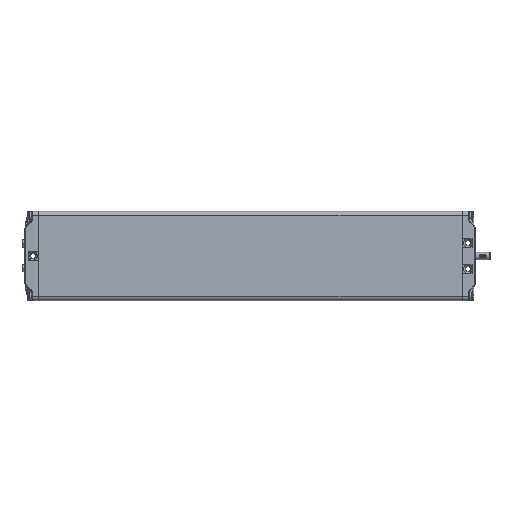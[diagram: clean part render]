
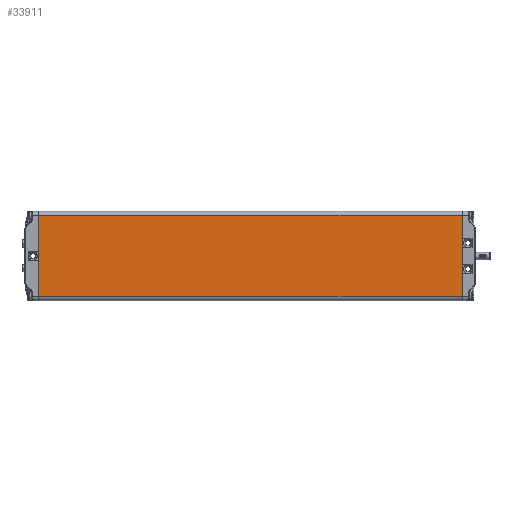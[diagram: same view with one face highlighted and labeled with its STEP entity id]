
A CAD part, top view. The second image highlights one B-rep face of the part: STEP entity #33911.
In plain terms, the highlighted planar face has unit normal (0, 0, 1).
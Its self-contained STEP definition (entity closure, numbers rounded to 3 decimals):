
#3531=LINE('',#72317,#4816);
#3532=LINE('',#72320,#4817);
#3533=LINE('',#72322,#4818);
#3534=LINE('',#72324,#4819);
#4816=VECTOR('',#41149,1000.);
#4817=VECTOR('',#41150,1000.);
#4818=VECTOR('',#41151,1000.);
#4819=VECTOR('',#41152,1000.);
#10116=ORIENTED_EDGE('',*,*,#16193,.T.);
#10117=ORIENTED_EDGE('',*,*,#16194,.T.);
#10118=ORIENTED_EDGE('',*,*,#16195,.T.);
#10119=ORIENTED_EDGE('',*,*,#16196,.T.);
#16193=EDGE_CURVE('',#19457,#19458,#3531,.F.);
#16194=EDGE_CURVE('',#19458,#19459,#3532,.T.);
#16195=EDGE_CURVE('',#19459,#19460,#3533,.T.);
#16196=EDGE_CURVE('',#19460,#19457,#3534,.F.);
#19457=VERTEX_POINT('',#72318);
#19458=VERTEX_POINT('',#72319);
#19459=VERTEX_POINT('',#72321);
#19460=VERTEX_POINT('',#72323);
#22955=EDGE_LOOP('',(#10116,#10117,#10118,#10119));
#24947=FACE_BOUND('',#22955,.T.);
#26093=PLANE('',#36180);
#33911=ADVANCED_FACE('',(#24947),#26093,.T.);
#36180=AXIS2_PLACEMENT_3D('',#72316,#41147,#41148);
#41147=DIRECTION('',(0.,0.,1.));
#41148=DIRECTION('',(1.,0.,0.));
#41149=DIRECTION('',(0.,-1.,0.));
#41150=DIRECTION('',(-1.,0.,0.));
#41151=DIRECTION('',(0.,-1.,0.));
#41152=DIRECTION('',(-1.,0.,0.));
#72316=CARTESIAN_POINT('',(60.,570.5,30.));
#72317=CARTESIAN_POINT('',(54.,570.5,30.));
#72318=CARTESIAN_POINT('',(54.,0.5,30.));
#72319=CARTESIAN_POINT('',(54.,570.,30.));
#72320=CARTESIAN_POINT('',(60.,570.,30.));
#72321=CARTESIAN_POINT('',(-54.,570.,30.));
#72322=CARTESIAN_POINT('',(-54.,570.5,30.));
#72323=CARTESIAN_POINT('',(-54.,0.5,30.));
#72324=CARTESIAN_POINT('',(54.,0.5,30.));
